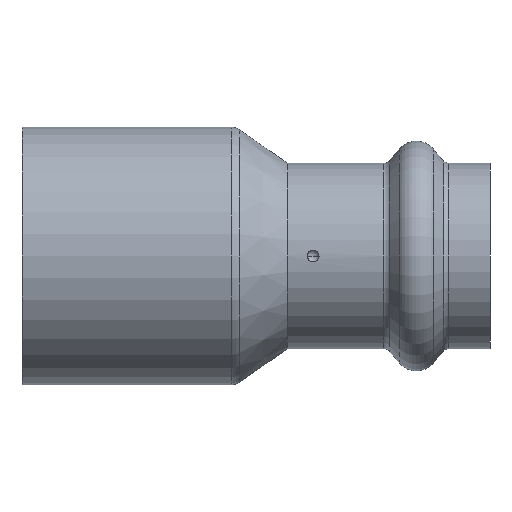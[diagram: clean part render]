
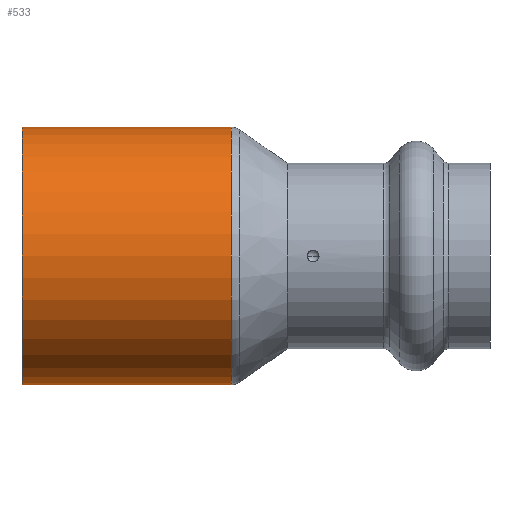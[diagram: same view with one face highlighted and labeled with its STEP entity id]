
A CAD part, front view. The second image highlights one B-rep face of the part: STEP entity #533.
In plain terms, the highlighted cylindrical face has radius 17.5 mm (diameter 35 mm), a partial arc.
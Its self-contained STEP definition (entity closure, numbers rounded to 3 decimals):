
#196 = CARTESIAN_POINT ( 'NONE',  ( 0., 0., -17.5 ) ) ;
#218 = LINE ( 'NONE', #727, #1095 ) ;
#221 = LINE ( 'NONE', #1350, #1403 ) ;
#241 = DIRECTION ( 'NONE',  ( -1., 0., 0. ) ) ;
#246 = ORIENTED_EDGE ( 'NONE', *, *, #362, .F. ) ;
#248 = CARTESIAN_POINT ( 'NONE',  ( 28.369, 0., -17.5 ) ) ;
#292 = CARTESIAN_POINT ( 'NONE',  ( 28.369, 0., 0. ) ) ;
#315 = DIRECTION ( 'NONE',  ( -1., 0., 0. ) ) ;
#360 = CARTESIAN_POINT ( 'NONE',  ( 28.369, 0., 17.5 ) ) ;
#362 = EDGE_CURVE ( 'NONE', #917, #1199, #1116, .T. ) ;
#371 = DIRECTION ( 'NONE',  ( 0., 0., 1. ) ) ;
#487 = CARTESIAN_POINT ( 'NONE',  ( 0., 0., 0. ) ) ;
#533 = ADVANCED_FACE ( 'NONE', ( #1229 ), #985, .T. ) ;
#645 = EDGE_CURVE ( 'NONE', #1334, #1365, #1446, .T. ) ;
#655 = EDGE_CURVE ( 'NONE', #1365, #1199, #221, .T. ) ;
#719 = AXIS2_PLACEMENT_3D ( 'NONE', #1125, #1020, #1234 ) ;
#727 = CARTESIAN_POINT ( 'NONE',  ( -4.079, 0., -17.5 ) ) ;
#755 = ORIENTED_EDGE ( 'NONE', *, *, #1347, .F. ) ;
#818 = AXIS2_PLACEMENT_3D ( 'NONE', #487, #1156, #371 ) ;
#844 = EDGE_LOOP ( 'NONE', ( #755, #1087, #1288, #246 ) ) ;
#917 = VERTEX_POINT ( 'NONE', #196 ) ;
#985 = CYLINDRICAL_SURFACE ( 'NONE', #719, 17.5 ) ;
#1011 = AXIS2_PLACEMENT_3D ( 'NONE', #292, #315, #1451 ) ;
#1020 = DIRECTION ( 'NONE',  ( -1., 0., 0. ) ) ;
#1087 = ORIENTED_EDGE ( 'NONE', *, *, #645, .T. ) ;
#1095 = VECTOR ( 'NONE', #1390, 1000. ) ;
#1116 = CIRCLE ( 'NONE', #818, 17.5 ) ;
#1125 = CARTESIAN_POINT ( 'NONE',  ( -4.079, 0., 0. ) ) ;
#1156 = DIRECTION ( 'NONE',  ( -1., 0., 0. ) ) ;
#1199 = VERTEX_POINT ( 'NONE', #1243 ) ;
#1229 = FACE_OUTER_BOUND ( 'NONE', #844, .T. ) ;
#1234 = DIRECTION ( 'NONE',  ( 0., 0., 1. ) ) ;
#1243 = CARTESIAN_POINT ( 'NONE',  ( 0., 0., 17.5 ) ) ;
#1288 = ORIENTED_EDGE ( 'NONE', *, *, #655, .T. ) ;
#1334 = VERTEX_POINT ( 'NONE', #248 ) ;
#1347 = EDGE_CURVE ( 'NONE', #1334, #917, #218, .T. ) ;
#1350 = CARTESIAN_POINT ( 'NONE',  ( -4.079, 0., 17.5 ) ) ;
#1365 = VERTEX_POINT ( 'NONE', #360 ) ;
#1390 = DIRECTION ( 'NONE',  ( -1., 0., 0. ) ) ;
#1403 = VECTOR ( 'NONE', #241, 1000. ) ;
#1446 = CIRCLE ( 'NONE', #1011, 17.5 ) ;
#1451 = DIRECTION ( 'NONE',  ( 0., 0., -1. ) ) ;
